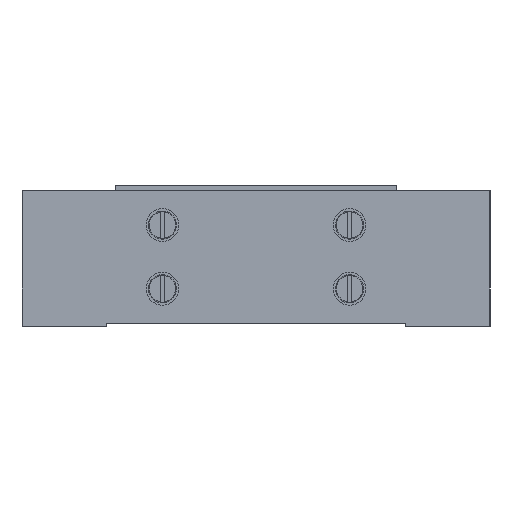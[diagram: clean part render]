
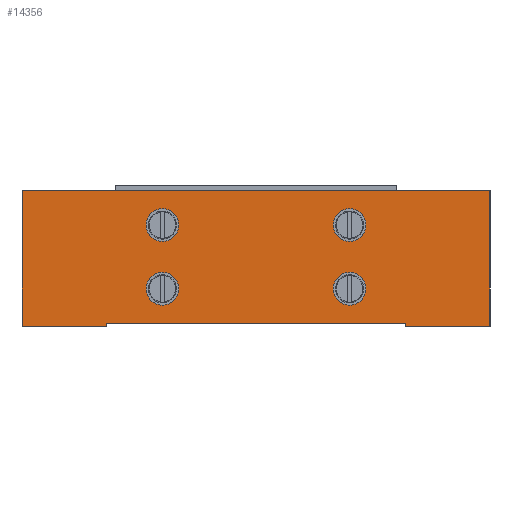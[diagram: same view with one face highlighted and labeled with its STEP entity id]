
A CAD part, left-side view. The second image highlights one B-rep face of the part: STEP entity #14356.
In plain terms, the highlighted planar face has unit normal (-1, 0, 0).
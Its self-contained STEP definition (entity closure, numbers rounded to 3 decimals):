
#1070 = VERTEX_POINT ( 'NONE', #8081 ) ;
#1073 = VERTEX_POINT ( 'NONE', #8084 ) ;
#1074 = VERTEX_POINT ( 'NONE', #8085 ) ;
#1077 = VERTEX_POINT ( 'NONE', #8088 ) ;
#1083 = VERTEX_POINT ( 'NONE', #8094 ) ;
#1086 = VERTEX_POINT ( 'NONE', #8097 ) ;
#1087 = VERTEX_POINT ( 'NONE', #8098 ) ;
#1093 = VERTEX_POINT ( 'NONE', #8104 ) ;
#1853 = AXIS2_PLACEMENT_3D ( 'NONE', #3335, #3336, #3337 ) ;
#3267 = CARTESIAN_POINT ( 'NONE',  ( -25., 10., 5.75 ) ) ;
#3274 = CARTESIAN_POINT ( 'NONE',  ( -25., 10., 2.25 ) ) ;
#3335 = CARTESIAN_POINT ( 'NONE',  ( -25., 10., 10.8 ) ) ;
#3336 = DIRECTION ( 'NONE',  ( -1., 0., 0. ) ) ;
#3337 = DIRECTION ( 'NONE',  ( 0., 0., 1. ) ) ;
#4193 = EDGE_LOOP ( 'NONE', ( #4496, #4497 ) ) ;
#4218 = EDGE_LOOP ( 'NONE', ( #4490, #4491 ) ) ;
#4447 = VERTEX_POINT ( 'NONE', #3267 ) ;
#4449 = VERTEX_POINT ( 'NONE', #3274 ) ;
#4490 = ORIENTED_EDGE ( 'NONE', *, *, #12466, .F. ) ;
#4491 = ORIENTED_EDGE ( 'NONE', *, *, #12397, .F. ) ;
#4492 = ORIENTED_EDGE ( 'NONE', *, *, #12473, .F. ) ;
#4493 = ORIENTED_EDGE ( 'NONE', *, *, #12380, .F. ) ;
#4494 = ORIENTED_EDGE ( 'NONE', *, *, #12455, .F. ) ;
#4495 = ORIENTED_EDGE ( 'NONE', *, *, #12329, .F. ) ;
#4496 = ORIENTED_EDGE ( 'NONE', *, *, #12469, .F. ) ;
#4497 = ORIENTED_EDGE ( 'NONE', *, *, #6668, .F. ) ;
#4498 = ORIENTED_EDGE ( 'NONE', *, *, #12462, .T. ) ;
#4499 = ORIENTED_EDGE ( 'NONE', *, *, #12459, .F. ) ;
#4500 = ORIENTED_EDGE ( 'NONE', *, *, #12460, .F. ) ;
#4501 = ORIENTED_EDGE ( 'NONE', *, *, #12470, .T. ) ;
#4502 = ORIENTED_EDGE ( 'NONE', *, *, #12478, .T. ) ;
#4503 = ORIENTED_EDGE ( 'NONE', *, *, #12461, .F. ) ;
#4504 = ORIENTED_EDGE ( 'NONE', *, *, #12472, .F. ) ;
#4505 = ORIENTED_EDGE ( 'NONE', *, *, #12474, .T. ) ;
#5088 = DIRECTION ( 'NONE',  ( 1., 0., 0. ) ) ;
#5094 = PLANE ( 'NONE',  #11294 ) ;
#5096 = CARTESIAN_POINT ( 'NONE',  ( -25., -25., 14.5 ) ) ;
#5098 = DIRECTION ( 'NONE',  ( 0., 0., -1. ) ) ;
#5625 = CIRCLE ( 'NONE', #1853, 1.75 ) ;
#6668 = EDGE_CURVE ( 'NONE', #8050, #7912, #5625, .T. ) ;
#7912 = VERTEX_POINT ( 'NONE', #9691 ) ;
#7964 = VERTEX_POINT ( 'NONE', #9743 ) ;
#7969 = VERTEX_POINT ( 'NONE', #9748 ) ;
#8042 = VERTEX_POINT ( 'NONE', #9821 ) ;
#8047 = VERTEX_POINT ( 'NONE', #9826 ) ;
#8050 = VERTEX_POINT ( 'NONE', #9829 ) ;
#8081 = CARTESIAN_POINT ( 'NONE',  ( -25., 25., 14.5 ) ) ;
#8084 = CARTESIAN_POINT ( 'NONE',  ( -25., -16., 0.25 ) ) ;
#8085 = CARTESIAN_POINT ( 'NONE',  ( -25., 16., 0. ) ) ;
#8088 = CARTESIAN_POINT ( 'NONE',  ( -25., 25., 0. ) ) ;
#8094 = CARTESIAN_POINT ( 'NONE',  ( -25., -25., 14.5 ) ) ;
#8097 = CARTESIAN_POINT ( 'NONE',  ( -25., -16., 0. ) ) ;
#8098 = CARTESIAN_POINT ( 'NONE',  ( -25., -25., 0. ) ) ;
#8104 = CARTESIAN_POINT ( 'NONE',  ( -25., 16., 0.25 ) ) ;
#9691 = CARTESIAN_POINT ( 'NONE',  ( -25., 10., 12.55 ) ) ;
#9743 = CARTESIAN_POINT ( 'NONE',  ( -25., -10., 9.05 ) ) ;
#9748 = CARTESIAN_POINT ( 'NONE',  ( -25., -10., 5.75 ) ) ;
#9821 = CARTESIAN_POINT ( 'NONE',  ( -25., -10., 2.25 ) ) ;
#9826 = CARTESIAN_POINT ( 'NONE',  ( -25., -10., 12.55 ) ) ;
#9829 = CARTESIAN_POINT ( 'NONE',  ( -25., 10., 9.05 ) ) ;
#9928 = CARTESIAN_POINT ( 'NONE',  ( -25., -10., 4. ) ) ;
#10532 = FACE_BOUND ( 'NONE', #4193, .T. ) ;
#10537 = FACE_BOUND ( 'NONE', #12784, .T. ) ;
#10538 = FACE_BOUND ( 'NONE', #4218, .T. ) ;
#10539 = FACE_OUTER_BOUND ( 'NONE', #12815, .T. ) ;
#10541 = FACE_BOUND ( 'NONE', #12786, .T. ) ;
#10937 = AXIS2_PLACEMENT_3D ( 'NONE', #14519, #14520, #14521 ) ;
#10956 = AXIS2_PLACEMENT_3D ( 'NONE', #14666, #14667, #14668 ) ;
#10962 = AXIS2_PLACEMENT_3D ( 'NONE', #14704, #14705, #14706 ) ;
#10985 = AXIS2_PLACEMENT_3D ( 'NONE', #14843, #14844, #14845 ) ;
#10987 = AXIS2_PLACEMENT_3D ( 'NONE', #9928, #13108, #13109 ) ;
#10988 = AXIS2_PLACEMENT_3D ( 'NONE', #13114, #13115, #13116 ) ;
#10989 = AXIS2_PLACEMENT_3D ( 'NONE', #13123, #13124, #13125 ) ;
#11294 = AXIS2_PLACEMENT_3D ( 'NONE', #5096, #5088, #5098 ) ;
#11639 = CIRCLE ( 'NONE', #10937, 1.75 ) ;
#11711 = CIRCLE ( 'NONE', #10956, 1.75 ) ;
#11747 = CIRCLE ( 'NONE', #10962, 1.75 ) ;
#11836 = CIRCLE ( 'NONE', #10985, 1.75 ) ;
#11840 = LINE ( 'NONE', #14847, #11849 ) ;
#11848 = LINE ( 'NONE', #14855, #11851 ) ;
#11849 = VECTOR ( 'NONE', #14854, 1000. ) ;
#11850 = LINE ( 'NONE', #14857, #11853 ) ;
#11851 = VECTOR ( 'NONE', #14856, 1000. ) ;
#11852 = LINE ( 'NONE', #14859, #11855 ) ;
#11853 = VECTOR ( 'NONE', #14858, 1000. ) ;
#11855 = VECTOR ( 'NONE', #14861, 1000. ) ;
#11860 = CIRCLE ( 'NONE', #10987, 1.75 ) ;
#11865 = CIRCLE ( 'NONE', #10988, 1.75 ) ;
#11867 = LINE ( 'NONE', #14867, #11869 ) ;
#11869 = VECTOR ( 'NONE', #14868, 1000. ) ;
#11870 = LINE ( 'NONE', #13119, #11873 ) ;
#11872 = CIRCLE ( 'NONE', #10989, 1.75 ) ;
#11873 = VECTOR ( 'NONE', #13120, 1000. ) ;
#11874 = LINE ( 'NONE', #13112, #11876 ) ;
#11876 = VECTOR ( 'NONE', #13113, 1000. ) ;
#11881 = LINE ( 'NONE', #13127, #11883 ) ;
#11883 = VECTOR ( 'NONE', #13121, 1000. ) ;
#12329 = EDGE_CURVE ( 'NONE', #4449, #4447, #11639, .T. ) ;
#12380 = EDGE_CURVE ( 'NONE', #7964, #8047, #11711, .T. ) ;
#12397 = EDGE_CURVE ( 'NONE', #8042, #7969, #11747, .T. ) ;
#12455 = EDGE_CURVE ( 'NONE', #4447, #4449, #11836, .T. ) ;
#12459 = EDGE_CURVE ( 'NONE', #1093, #1074, #11840, .T. ) ;
#12460 = EDGE_CURVE ( 'NONE', #1073, #1093, #11848, .T. ) ;
#12461 = EDGE_CURVE ( 'NONE', #1083, #1087, #11850, .T. ) ;
#12462 = EDGE_CURVE ( 'NONE', #1077, #1074, #11852, .T. ) ;
#12466 = EDGE_CURVE ( 'NONE', #7969, #8042, #11860, .T. ) ;
#12469 = EDGE_CURVE ( 'NONE', #7912, #8050, #11865, .T. ) ;
#12470 = EDGE_CURVE ( 'NONE', #1073, #1086, #11867, .T. ) ;
#12472 = EDGE_CURVE ( 'NONE', #1070, #1083, #11870, .T. ) ;
#12473 = EDGE_CURVE ( 'NONE', #8047, #7964, #11872, .T. ) ;
#12474 = EDGE_CURVE ( 'NONE', #1070, #1077, #11874, .T. ) ;
#12478 = EDGE_CURVE ( 'NONE', #1086, #1087, #11881, .T. ) ;
#12784 = EDGE_LOOP ( 'NONE', ( #4494, #4495 ) ) ;
#12786 = EDGE_LOOP ( 'NONE', ( #4492, #4493 ) ) ;
#12815 = EDGE_LOOP ( 'NONE', ( #4498, #4499, #4500, #4501, #4502, #4503, #4504, #4505 ) ) ;
#13108 = DIRECTION ( 'NONE',  ( -1., 0., 0. ) ) ;
#13109 = DIRECTION ( 'NONE',  ( 0., 0., 1. ) ) ;
#13112 = CARTESIAN_POINT ( 'NONE',  ( -25., 25., 14.5 ) ) ;
#13113 = DIRECTION ( 'NONE',  ( 0., 0., -1. ) ) ;
#13114 = CARTESIAN_POINT ( 'NONE',  ( -25., 10., 10.8 ) ) ;
#13115 = DIRECTION ( 'NONE',  ( -1., 0., 0. ) ) ;
#13116 = DIRECTION ( 'NONE',  ( 0., 0., 1. ) ) ;
#13119 = CARTESIAN_POINT ( 'NONE',  ( -25., -25., 14.5 ) ) ;
#13120 = DIRECTION ( 'NONE',  ( 0., -1., 0. ) ) ;
#13121 = DIRECTION ( 'NONE',  ( 0., -1., 0. ) ) ;
#13123 = CARTESIAN_POINT ( 'NONE',  ( -25., -10., 10.8 ) ) ;
#13124 = DIRECTION ( 'NONE',  ( -1., 0., 0. ) ) ;
#13125 = DIRECTION ( 'NONE',  ( 0., 0., 1. ) ) ;
#13127 = CARTESIAN_POINT ( 'NONE',  ( -25., -25., 0. ) ) ;
#14356 = ADVANCED_FACE ( 'NONE', ( #10538, #10541, #10537, #10532, #10539 ), #5094, .F. ) ;
#14519 = CARTESIAN_POINT ( 'NONE',  ( -25., 10., 4. ) ) ;
#14520 = DIRECTION ( 'NONE',  ( -1., 0., 0. ) ) ;
#14521 = DIRECTION ( 'NONE',  ( 0., 0., 1. ) ) ;
#14666 = CARTESIAN_POINT ( 'NONE',  ( -25., -10., 10.8 ) ) ;
#14667 = DIRECTION ( 'NONE',  ( -1., 0., 0. ) ) ;
#14668 = DIRECTION ( 'NONE',  ( 0., 0., 1. ) ) ;
#14704 = CARTESIAN_POINT ( 'NONE',  ( -25., -10., 4. ) ) ;
#14705 = DIRECTION ( 'NONE',  ( -1., 0., 0. ) ) ;
#14706 = DIRECTION ( 'NONE',  ( 0., 0., 1. ) ) ;
#14843 = CARTESIAN_POINT ( 'NONE',  ( -25., 10., 4. ) ) ;
#14844 = DIRECTION ( 'NONE',  ( -1., 0., 0. ) ) ;
#14845 = DIRECTION ( 'NONE',  ( 0., 0., 1. ) ) ;
#14847 = CARTESIAN_POINT ( 'NONE',  ( -25., 16., 0.25 ) ) ;
#14854 = DIRECTION ( 'NONE',  ( 0., 0., -1. ) ) ;
#14855 = CARTESIAN_POINT ( 'NONE',  ( -25., -16., 0.25 ) ) ;
#14856 = DIRECTION ( 'NONE',  ( 0., 1., 0. ) ) ;
#14857 = CARTESIAN_POINT ( 'NONE',  ( -25., -25., 14.5 ) ) ;
#14858 = DIRECTION ( 'NONE',  ( 0., 0., -1. ) ) ;
#14859 = CARTESIAN_POINT ( 'NONE',  ( -25., -25., 0. ) ) ;
#14861 = DIRECTION ( 'NONE',  ( 0., -1., 0. ) ) ;
#14867 = CARTESIAN_POINT ( 'NONE',  ( -25., -16., 0.25 ) ) ;
#14868 = DIRECTION ( 'NONE',  ( 0., 0., -1. ) ) ;
